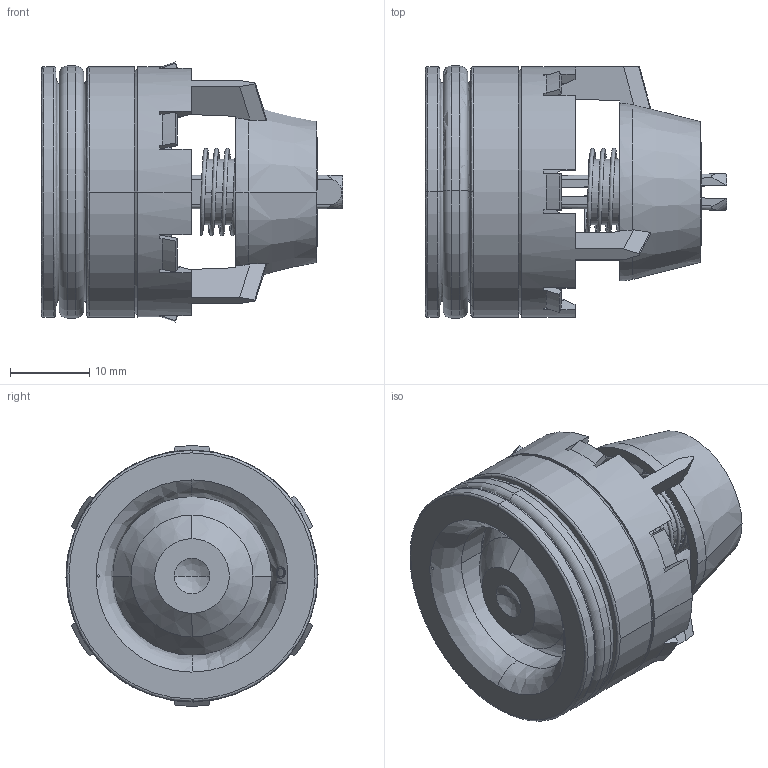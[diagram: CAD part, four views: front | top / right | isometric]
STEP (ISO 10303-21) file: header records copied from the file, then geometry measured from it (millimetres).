
FILE_DESCRIPTION (( 'STEP AP203' ), '1' );
FILE_NAME ('I0032-W149032620.STEP', '2020-04-08T14:35:46', ( '' ), ( '' ), 'SwSTEP 2.0', 'SolidWorks 2017', '' );
FILE_SCHEMA (( 'CONFIG_CONTROL_DESIGN' ));
Length unit declared in the file: metre
Products named in the file (7): PRT_FRVIR_0000008048_D32Spl(monté); I0032-W149032620; PRT_FRVIR_0000008080; Pièce31^ASM_FRVIR_0000002703; PRT_FRVIR_0000008065; PRT_FRVIR_0000008077; FUR_FRVIR_0000000994
Assembly tree (6 placements, depth 2):
  I0032-W149032620
    PRT_FRVIR_0000008065
    FUR_FRVIR_0000000994
    PRT_FRVIR_0000008048_D32Spl(monté)
    PRT_FRVIR_0000008077
    PRT_FRVIR_0000008080
    Pièce31^ASM_FRVIR_0000002703
Bounding box: 37.93 x 31.75 x 32.77 mm (x, y, z)
Volume: 9697.5 mm3; surface area: 12564.4 mm2
Topology: 6 solids, 6 shells, 470 faces, 1250 edges, 788 vertices
Faces by surface type: plane 193, bspline 138, cone 67, cylinder 64, torus 8
Entity records: 25450 total; most frequent: CARTESIAN_POINT 14354, ORIENTED_EDGE 2448, DIRECTION 1716, EDGE_CURVE 1224, VERTEX_POINT 788, AXIS2_PLACEMENT_3D 589, LINE 538, VECTOR 538
